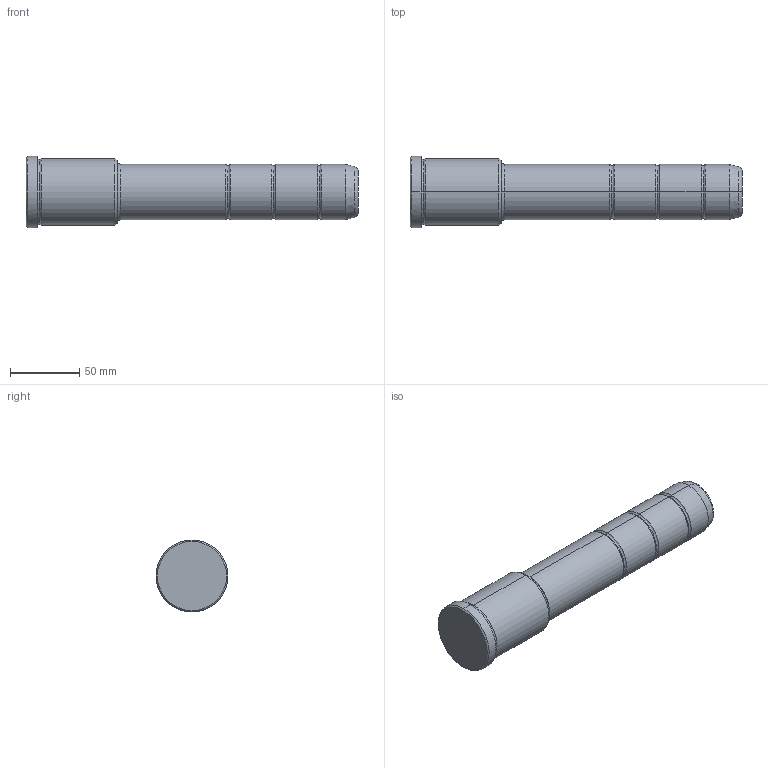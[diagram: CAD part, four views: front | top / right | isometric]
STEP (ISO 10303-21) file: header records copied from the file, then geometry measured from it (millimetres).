
FILE_DESCRIPTION(('CATIA V5 STEP Exchange'),'2;1');
FILE_NAME('C:\Users\Utente\Desktop\IO LAVORO\3D X SITO CF\X SITO\PLASTICA\351\351-40X66X240.stp','2021-10-28T18:40:05+00:00',('none'),('none'),'CATIA Version 5 Release 20 GA (IN-10)','CATIA V5 STEP AP203','none');
FILE_SCHEMA(('CONFIG_CONTROL_DESIGN'));
Length unit declared in the file: millimetre
Products named in the file (1): 351-40X66X240
Bounding box: 240 x 52 x 52 mm (x, y, z)
Volume: 338148.3 mm3; surface area: 35701.6 mm2
Topology: 1 solids, 1 shells, 42 faces, 118 edges, 80 vertices
Faces by surface type: torus 20, cylinder 12, cone 6, plane 4
Entity records: 1472 total; most frequent: CARTESIAN_POINT 353, ORIENTED_EDGE 236, DIRECTION 194, AXIS2_PLACEMENT_3D 135, EDGE_CURVE 118, CIRCLE 92, VERTEX_POINT 80, EDGE_LOOP 44
